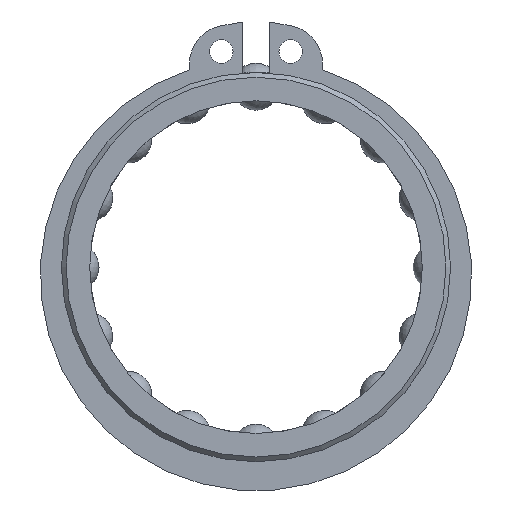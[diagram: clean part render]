
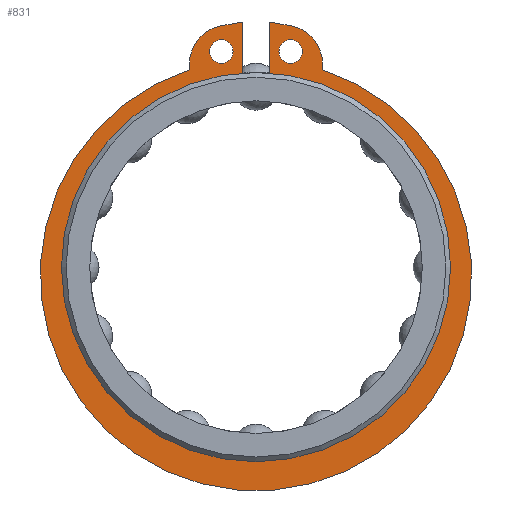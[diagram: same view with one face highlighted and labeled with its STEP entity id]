
A CAD part, left-side view. The second image highlights one B-rep face of the part: STEP entity #831.
In plain terms, the highlighted planar face has unit normal (-1, 0, 0).
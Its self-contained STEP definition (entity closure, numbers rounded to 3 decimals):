
#53=FACE_BOUND('',#311,.T.);
#54=FACE_BOUND('',#312,.T.);
#66=PLANE('',#930);
#79=LINE('',#2466,#111);
#87=LINE('',#2495,#119);
#91=LINE('',#2507,#123);
#94=LINE('',#2514,#126);
#95=LINE('',#2517,#127);
#98=LINE('',#2524,#130);
#111=VECTOR('',#1057,10.);
#119=VECTOR('',#1083,10.);
#123=VECTOR('',#1097,10.);
#126=VECTOR('',#1106,10.);
#127=VECTOR('',#1109,10.);
#130=VECTOR('',#1118,10.);
#141=CIRCLE('',#906,2.5);
#148=CIRCLE('',#916,2.5);
#149=CIRCLE('',#919,0.75);
#150=CIRCLE('',#921,0.75);
#151=CIRCLE('',#924,13.75);
#152=CIRCLE('',#928,12.05);
#218=FACE_OUTER_BOUND('',#310,.T.);
#310=EDGE_LOOP('',(#677,#678,#679,#680,#681,#682,#683,#684,#685,#686));
#311=EDGE_LOOP('',(#687));
#312=EDGE_LOOP('',(#688));
#395=VERTEX_POINT('',#2453);
#396=VERTEX_POINT('',#2454);
#400=VERTEX_POINT('',#2464);
#410=VERTEX_POINT('',#2488);
#411=VERTEX_POINT('',#2489);
#412=VERTEX_POINT('',#2494);
#413=VERTEX_POINT('',#2498);
#414=VERTEX_POINT('',#2502);
#415=VERTEX_POINT('',#2506);
#416=VERTEX_POINT('',#2510);
#417=VERTEX_POINT('',#2516);
#418=VERTEX_POINT('',#2520);
#473=EDGE_CURVE('',#395,#396,#141,.T.);
#479=EDGE_CURVE('',#395,#400,#79,.T.);
#490=EDGE_CURVE('',#410,#411,#148,.T.);
#493=EDGE_CURVE('',#412,#411,#87,.T.);
#495=EDGE_CURVE('',#413,#413,#149,.T.);
#497=EDGE_CURVE('',#414,#414,#150,.T.);
#499=EDGE_CURVE('',#415,#396,#91,.T.);
#501=EDGE_CURVE('',#416,#415,#151,.T.);
#503=EDGE_CURVE('',#410,#416,#94,.T.);
#504=EDGE_CURVE('',#417,#412,#95,.T.);
#506=EDGE_CURVE('',#418,#417,#152,.T.);
#508=EDGE_CURVE('',#400,#418,#98,.T.);
#677=ORIENTED_EDGE('',*,*,#473,.F.);
#678=ORIENTED_EDGE('',*,*,#479,.T.);
#679=ORIENTED_EDGE('',*,*,#508,.T.);
#680=ORIENTED_EDGE('',*,*,#506,.T.);
#681=ORIENTED_EDGE('',*,*,#504,.T.);
#682=ORIENTED_EDGE('',*,*,#493,.T.);
#683=ORIENTED_EDGE('',*,*,#490,.F.);
#684=ORIENTED_EDGE('',*,*,#503,.T.);
#685=ORIENTED_EDGE('',*,*,#501,.T.);
#686=ORIENTED_EDGE('',*,*,#499,.T.);
#687=ORIENTED_EDGE('',*,*,#497,.T.);
#688=ORIENTED_EDGE('',*,*,#495,.T.);
#831=ADVANCED_FACE('',(#218,#53,#54),#66,.T.);
#906=AXIS2_PLACEMENT_3D('',#2455,#1047,#1048);
#916=AXIS2_PLACEMENT_3D('',#2490,#1077,#1078);
#919=AXIS2_PLACEMENT_3D('',#2499,#1087,#1088);
#921=AXIS2_PLACEMENT_3D('',#2503,#1092,#1093);
#924=AXIS2_PLACEMENT_3D('',#2511,#1101,#1102);
#928=AXIS2_PLACEMENT_3D('',#2521,#1113,#1114);
#930=AXIS2_PLACEMENT_3D('',#2525,#1119,#1120);
#1047=DIRECTION('center_axis',(1.,0.,0.));
#1048=DIRECTION('ref_axis',(0.,-0.766,0.643));
#1057=DIRECTION('',(0.,0.985,0.174));
#1077=DIRECTION('center_axis',(1.,0.,0.));
#1078=DIRECTION('ref_axis',(0.,0.766,0.643));
#1083=DIRECTION('',(0.,0.985,-0.174));
#1087=DIRECTION('center_axis',(1.,0.,0.));
#1088=DIRECTION('ref_axis',(0.,0.,-1.));
#1092=DIRECTION('center_axis',(1.,0.,0.));
#1093=DIRECTION('ref_axis',(0.,0.,-1.));
#1097=DIRECTION('',(0.,0.,1.));
#1101=DIRECTION('center_axis',(-1.,0.,0.));
#1102=DIRECTION('ref_axis',(0.,0.309,0.951));
#1106=DIRECTION('',(0.,0.,-1.));
#1109=DIRECTION('',(0.,0.,1.));
#1113=DIRECTION('center_axis',(1.,0.,0.));
#1114=DIRECTION('ref_axis',(0.,-0.071,-0.998));
#1118=DIRECTION('',(0.,0.,-1.));
#1119=DIRECTION('center_axis',(-1.,0.,0.));
#1120=DIRECTION('ref_axis',(0.,0.,1.));
#2453=CARTESIAN_POINT('',(1.7,-2.184,15.385));
#2454=CARTESIAN_POINT('',(1.7,-4.25,12.923));
#2455=CARTESIAN_POINT('Origin',(1.7,-1.75,12.923));
#2464=CARTESIAN_POINT('',(1.7,-0.85,15.62));
#2466=CARTESIAN_POINT('',(1.7,-4.25,15.02));
#2488=CARTESIAN_POINT('',(1.7,4.25,12.923));
#2489=CARTESIAN_POINT('',(1.7,2.184,15.385));
#2490=CARTESIAN_POINT('Origin',(1.7,1.75,12.923));
#2494=CARTESIAN_POINT('',(1.7,0.85,15.62));
#2495=CARTESIAN_POINT('',(1.7,0.85,15.62));
#2498=CARTESIAN_POINT('',(1.7,2.21,14.485));
#2499=CARTESIAN_POINT('Origin',(1.7,2.21,13.735));
#2502=CARTESIAN_POINT('',(1.7,-2.21,14.485));
#2503=CARTESIAN_POINT('Origin',(1.7,-2.21,13.735));
#2506=CARTESIAN_POINT('',(1.7,-4.25,12.577));
#2507=CARTESIAN_POINT('',(1.7,-4.25,12.577));
#2510=CARTESIAN_POINT('',(1.7,4.25,12.577));
#2511=CARTESIAN_POINT('Origin',(1.7,0.,-0.5));
#2514=CARTESIAN_POINT('',(1.7,4.25,15.02));
#2516=CARTESIAN_POINT('',(1.7,0.85,12.02));
#2517=CARTESIAN_POINT('',(1.7,0.85,8.309));
#2520=CARTESIAN_POINT('',(1.7,-0.85,12.02));
#2521=CARTESIAN_POINT('Origin',(1.7,0.,0.));
#2524=CARTESIAN_POINT('',(1.7,-0.85,15.62));
#2525=CARTESIAN_POINT('Origin',(1.7,0.,0.685));
